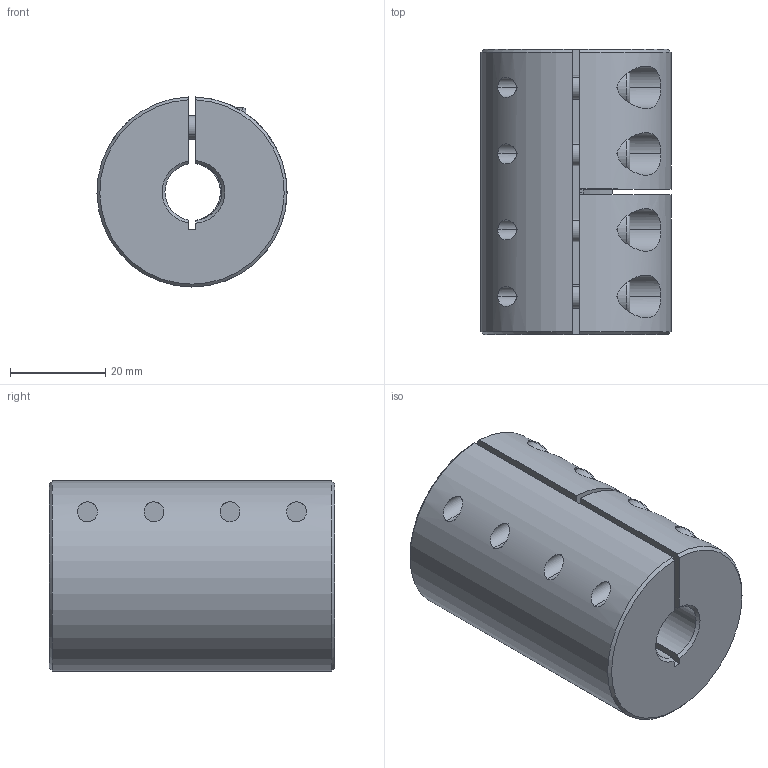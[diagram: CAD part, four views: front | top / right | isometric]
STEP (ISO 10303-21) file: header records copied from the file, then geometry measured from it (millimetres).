
FILE_DESCRIPTION (( 'STEP AP214' ), '1' );
FILE_NAME ('LL-B-D40L60-12-12½¨Ä£.STEP', '2022-07-22T00:58:05', ( '' ), ( '' ), 'SwSTEP 2.0', 'SolidWorks 2022', '' );
FILE_SCHEMA (( 'AUTOMOTIVE_DESIGN' ));
Length unit declared in the file: millimetre
Products named in the file (1): LL-B-D40L60-12-12膘耀
Bounding box: 40 x 60 x 39.99 mm (x, y, z)
Volume: 65094.5 mm3; surface area: 17267.4 mm2
Topology: 1 solids, 1 shells, 182 faces, 463 edges, 291 vertices
Faces by surface type: plane 88, cylinder 71, cone 15, torus 8
Entity records: 6015 total; most frequent: CARTESIAN_POINT 1525, DIRECTION 971, ORIENTED_EDGE 910, EDGE_CURVE 455, AXIS2_PLACEMENT_3D 377, VERTEX_POINT 291, LINE 217, VECTOR 217
